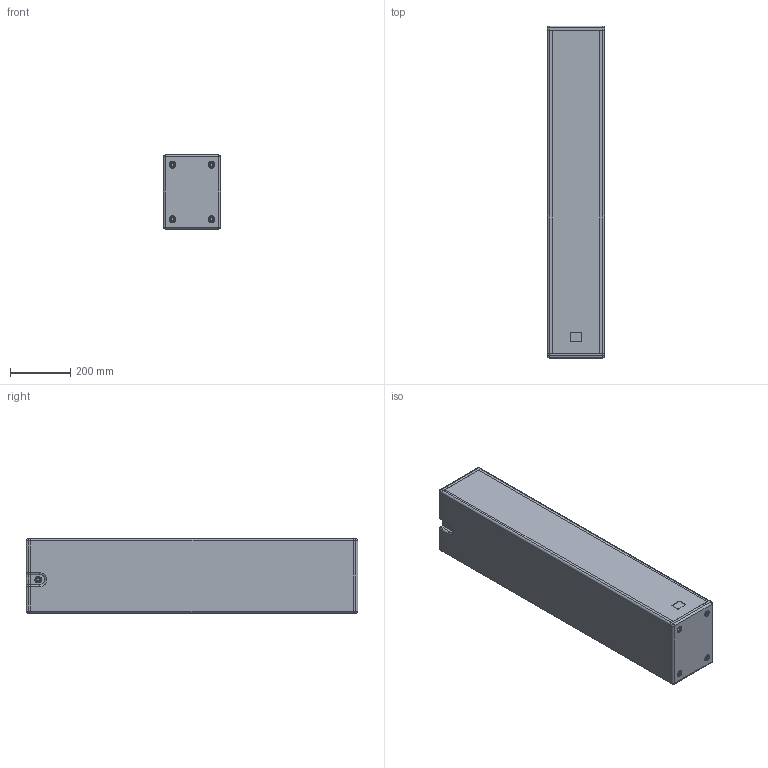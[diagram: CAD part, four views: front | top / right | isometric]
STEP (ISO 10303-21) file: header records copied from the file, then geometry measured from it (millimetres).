
FILE_DESCRIPTION (( 'STEP AP203' ), '1' );
FILE_NAME ('SEEBURG_Monopod-GL16.STEP', '2014-04-04T07:01:40', ( 'Michael Anter' ), ( 'SEEBURG acoustic line GmbH' ), 'SwSTEP 2.0', 'SolidWorks 2009', '' );
FILE_SCHEMA (( 'CONFIG_CONTROL_DESIGN' ));
Length unit declared in the file: millimetre
Products named in the file (9): SEEBURG_Monopod-GL16; Boden; Seitenwände; Frontwand; Deckel; Rückwand; Versteifung; Flansch; m10_flansch_assym
Assembly tree (14 placements, depth 2):
  SEEBURG_Monopod-GL16
    Flansch  x2
    Boden
    Seitenwände
    m10_flansch_assym  x6
    Frontwand
    Deckel
    Rückwand
    Versteifung
Bounding box: 189 x 1100 x 245.75 mm (x, y, z)
Volume: 14075175 mm3; surface area: 2102949.3 mm2
Topology: 21 solids, 21 shells, 408 faces, 976 edges, 612 vertices
Faces by surface type: cylinder 192, plane 142, cone 48, torus 14, sphere 12
Entity records: 7462 total; most frequent: DIRECTION 1201, CARTESIAN_POINT 1083, ORIENTED_EDGE 1030, EDGE_CURVE 515, AXIS2_PLACEMENT_3D 452, VERTEX_POINT 318, LINE 297, VECTOR 297
